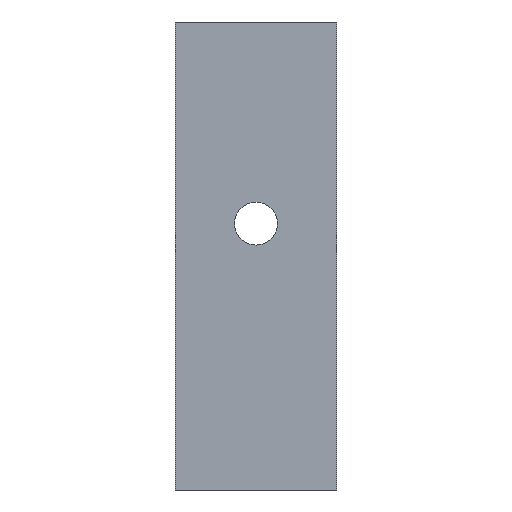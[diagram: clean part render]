
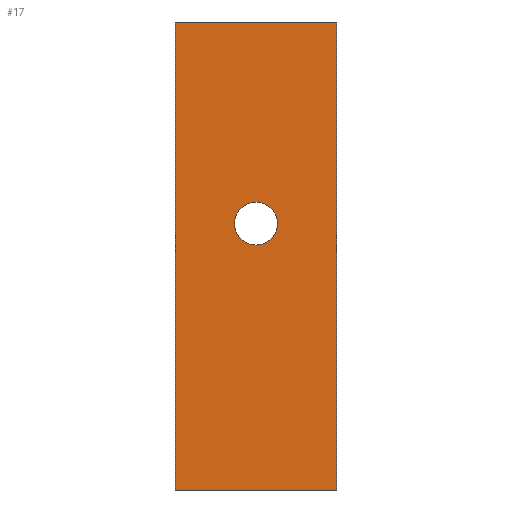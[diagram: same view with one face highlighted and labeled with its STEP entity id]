
A CAD part, left-side view. The second image highlights one B-rep face of the part: STEP entity #17.
In plain terms, the highlighted planar face has unit normal (-1, 0, 0).
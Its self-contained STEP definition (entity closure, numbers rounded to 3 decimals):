
#17 = ADVANCED_FACE('',(#18,#137),#32,.F.);
#18 = FACE_BOUND('',#19,.F.);
#19 = EDGE_LOOP('',(#20,#55,#83,#111));
#20 = ORIENTED_EDGE('',*,*,#21,.F.);
#21 = EDGE_CURVE('',#22,#24,#26,.T.);
#22 = VERTEX_POINT('',#23);
#23 = CARTESIAN_POINT('',(0.,-10.,0.));
#24 = VERTEX_POINT('',#25);
#25 = CARTESIAN_POINT('',(0.,-10.,57.8));
#26 = SURFACE_CURVE('',#27,(#31,#43),.PCURVE_S1.);
#27 = LINE('',#28,#29);
#28 = CARTESIAN_POINT('',(0.,-10.,0.));
#29 = VECTOR('',#30,1.);
#30 = DIRECTION('',(0.,0.,1.));
#31 = PCURVE('',#32,#37);
#32 = PLANE('',#33);
#33 = AXIS2_PLACEMENT_3D('',#34,#35,#36);
#34 = CARTESIAN_POINT('',(0.,-10.,0.));
#35 = DIRECTION('',(1.,0.,0.));
#36 = DIRECTION('',(0.,0.,1.));
#37 = DEFINITIONAL_REPRESENTATION('',(#38),#42);
#38 = LINE('',#39,#40);
#39 = CARTESIAN_POINT('',(0.,0.));
#40 = VECTOR('',#41,1.);
#41 = DIRECTION('',(1.,0.));
#42 = ( GEOMETRIC_REPRESENTATION_CONTEXT(2) 
PARAMETRIC_REPRESENTATION_CONTEXT() REPRESENTATION_CONTEXT('2D SPACE',''
  ) );
#43 = PCURVE('',#44,#49);
#44 = PLANE('',#45);
#45 = AXIS2_PLACEMENT_3D('',#46,#47,#48);
#46 = CARTESIAN_POINT('',(0.,-10.,0.));
#47 = DIRECTION('',(0.,1.,0.));
#48 = DIRECTION('',(0.,0.,1.));
#49 = DEFINITIONAL_REPRESENTATION('',(#50),#54);
#50 = LINE('',#51,#52);
#51 = CARTESIAN_POINT('',(0.,0.));
#52 = VECTOR('',#53,1.);
#53 = DIRECTION('',(1.,0.));
#54 = ( GEOMETRIC_REPRESENTATION_CONTEXT(2) 
PARAMETRIC_REPRESENTATION_CONTEXT() REPRESENTATION_CONTEXT('2D SPACE',''
  ) );
#55 = ORIENTED_EDGE('',*,*,#56,.T.);
#56 = EDGE_CURVE('',#22,#57,#59,.T.);
#57 = VERTEX_POINT('',#58);
#58 = CARTESIAN_POINT('',(0.,10.,0.));
#59 = SURFACE_CURVE('',#60,(#64,#71),.PCURVE_S1.);
#60 = LINE('',#61,#62);
#61 = CARTESIAN_POINT('',(0.,-10.,0.));
#62 = VECTOR('',#63,1.);
#63 = DIRECTION('',(0.,1.,0.));
#64 = PCURVE('',#32,#65);
#65 = DEFINITIONAL_REPRESENTATION('',(#66),#70);
#66 = LINE('',#67,#68);
#67 = CARTESIAN_POINT('',(0.,0.));
#68 = VECTOR('',#69,1.);
#69 = DIRECTION('',(0.,-1.));
#70 = ( GEOMETRIC_REPRESENTATION_CONTEXT(2) 
PARAMETRIC_REPRESENTATION_CONTEXT() REPRESENTATION_CONTEXT('2D SPACE',''
  ) );
#71 = PCURVE('',#72,#77);
#72 = PLANE('',#73);
#73 = AXIS2_PLACEMENT_3D('',#74,#75,#76);
#74 = CARTESIAN_POINT('',(0.,-10.,0.));
#75 = DIRECTION('',(0.,0.,1.));
#76 = DIRECTION('',(1.,0.,0.));
#77 = DEFINITIONAL_REPRESENTATION('',(#78),#82);
#78 = LINE('',#79,#80);
#79 = CARTESIAN_POINT('',(0.,0.));
#80 = VECTOR('',#81,1.);
#81 = DIRECTION('',(0.,1.));
#82 = ( GEOMETRIC_REPRESENTATION_CONTEXT(2) 
PARAMETRIC_REPRESENTATION_CONTEXT() REPRESENTATION_CONTEXT('2D SPACE',''
  ) );
#83 = ORIENTED_EDGE('',*,*,#84,.F.);
#84 = EDGE_CURVE('',#85,#57,#87,.T.);
#85 = VERTEX_POINT('',#86);
#86 = CARTESIAN_POINT('',(0.,10.,57.8));
#87 = SURFACE_CURVE('',#88,(#92,#99),.PCURVE_S1.);
#88 = LINE('',#89,#90);
#89 = CARTESIAN_POINT('',(0.,10.,57.8));
#90 = VECTOR('',#91,1.);
#91 = DIRECTION('',(0.,0.,-1.));
#92 = PCURVE('',#32,#93);
#93 = DEFINITIONAL_REPRESENTATION('',(#94),#98);
#94 = LINE('',#95,#96);
#95 = CARTESIAN_POINT('',(57.8,-20.));
#96 = VECTOR('',#97,1.);
#97 = DIRECTION('',(-1.,0.));
#98 = ( GEOMETRIC_REPRESENTATION_CONTEXT(2) 
PARAMETRIC_REPRESENTATION_CONTEXT() REPRESENTATION_CONTEXT('2D SPACE',''
  ) );
#99 = PCURVE('',#100,#105);
#100 = PLANE('',#101);
#101 = AXIS2_PLACEMENT_3D('',#102,#103,#104);
#102 = CARTESIAN_POINT('',(0.,10.,0.));
#103 = DIRECTION('',(0.,1.,0.));
#104 = DIRECTION('',(0.,0.,1.));
#105 = DEFINITIONAL_REPRESENTATION('',(#106),#110);
#106 = LINE('',#107,#108);
#107 = CARTESIAN_POINT('',(57.8,0.));
#108 = VECTOR('',#109,1.);
#109 = DIRECTION('',(-1.,0.));
#110 = ( GEOMETRIC_REPRESENTATION_CONTEXT(2) 
PARAMETRIC_REPRESENTATION_CONTEXT() REPRESENTATION_CONTEXT('2D SPACE',''
  ) );
#111 = ORIENTED_EDGE('',*,*,#112,.F.);
#112 = EDGE_CURVE('',#24,#85,#113,.T.);
#113 = SURFACE_CURVE('',#114,(#118,#125),.PCURVE_S1.);
#114 = LINE('',#115,#116);
#115 = CARTESIAN_POINT('',(0.,-10.,57.8));
#116 = VECTOR('',#117,1.);
#117 = DIRECTION('',(0.,1.,0.));
#118 = PCURVE('',#32,#119);
#119 = DEFINITIONAL_REPRESENTATION('',(#120),#124);
#120 = LINE('',#121,#122);
#121 = CARTESIAN_POINT('',(57.8,0.));
#122 = VECTOR('',#123,1.);
#123 = DIRECTION('',(0.,-1.));
#124 = ( GEOMETRIC_REPRESENTATION_CONTEXT(2) 
PARAMETRIC_REPRESENTATION_CONTEXT() REPRESENTATION_CONTEXT('2D SPACE',''
  ) );
#125 = PCURVE('',#126,#131);
#126 = PLANE('',#127);
#127 = AXIS2_PLACEMENT_3D('',#128,#129,#130);
#128 = CARTESIAN_POINT('',(0.,-10.,57.8));
#129 = DIRECTION('',(0.,0.,1.));
#130 = DIRECTION('',(1.,0.,0.));
#131 = DEFINITIONAL_REPRESENTATION('',(#132),#136);
#132 = LINE('',#133,#134);
#133 = CARTESIAN_POINT('',(0.,0.));
#134 = VECTOR('',#135,1.);
#135 = DIRECTION('',(0.,1.));
#136 = ( GEOMETRIC_REPRESENTATION_CONTEXT(2) 
PARAMETRIC_REPRESENTATION_CONTEXT() REPRESENTATION_CONTEXT('2D SPACE',''
  ) );
#137 = FACE_BOUND('',#138,.F.);
#138 = EDGE_LOOP('',(#139));
#139 = ORIENTED_EDGE('',*,*,#140,.F.);
#140 = EDGE_CURVE('',#141,#141,#143,.T.);
#141 = VERTEX_POINT('',#142);
#142 = CARTESIAN_POINT('',(-0.,2.65,32.9));
#143 = SURFACE_CURVE('',#144,(#149,#156),.PCURVE_S1.);
#144 = CIRCLE('',#145,2.65);
#145 = AXIS2_PLACEMENT_3D('',#146,#147,#148);
#146 = CARTESIAN_POINT('',(0.,0.,32.9));
#147 = DIRECTION('',(1.,0.,0.));
#148 = DIRECTION('',(0.,1.,0.));
#149 = PCURVE('',#32,#150);
#150 = DEFINITIONAL_REPRESENTATION('',(#151),#155);
#151 = CIRCLE('',#152,2.65);
#152 = AXIS2_PLACEMENT_2D('',#153,#154);
#153 = CARTESIAN_POINT('',(32.9,-10.));
#154 = DIRECTION('',(0.,-1.));
#155 = ( GEOMETRIC_REPRESENTATION_CONTEXT(2) 
PARAMETRIC_REPRESENTATION_CONTEXT() REPRESENTATION_CONTEXT('2D SPACE',''
  ) );
#156 = PCURVE('',#157,#162);
#157 = CYLINDRICAL_SURFACE('',#158,2.65);
#158 = AXIS2_PLACEMENT_3D('',#159,#160,#161);
#159 = CARTESIAN_POINT('',(0.,0.,32.9));
#160 = DIRECTION('',(1.,0.,0.));
#161 = DIRECTION('',(0.,1.,0.));
#162 = DEFINITIONAL_REPRESENTATION('',(#163),#167);
#163 = LINE('',#164,#165);
#164 = CARTESIAN_POINT('',(0.,0.));
#165 = VECTOR('',#166,1.);
#166 = DIRECTION('',(1.,0.));
#167 = ( GEOMETRIC_REPRESENTATION_CONTEXT(2) 
PARAMETRIC_REPRESENTATION_CONTEXT() REPRESENTATION_CONTEXT('2D SPACE',''
  ) );
